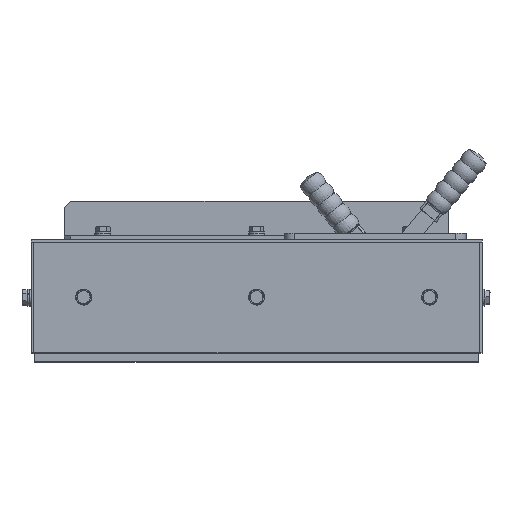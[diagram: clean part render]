
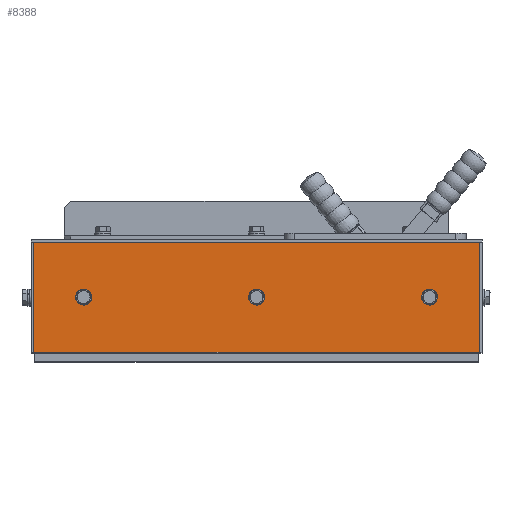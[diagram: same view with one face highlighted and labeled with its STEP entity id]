
A CAD part, top view. The second image highlights one B-rep face of the part: STEP entity #8388.
In plain terms, the highlighted planar face has unit normal (0, 0, 1) as drawn and (1, 0, 0) by its records, which use the part's own axes.
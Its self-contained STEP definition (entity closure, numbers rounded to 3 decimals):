
#939=FACE_BOUND('',#1920,.T.);
#940=FACE_BOUND('',#1921,.T.);
#941=FACE_BOUND('',#1922,.T.);
#1125=PLANE('',#9352);
#1390=FACE_OUTER_BOUND('',#1919,.T.);
#1919=EDGE_LOOP('',(#6275,#6276,#6277,#6278));
#1920=EDGE_LOOP('',(#6279));
#1921=EDGE_LOOP('',(#6280));
#1922=EDGE_LOOP('',(#6281));
#2573=LINE('',#13249,#3145);
#2577=LINE('',#13257,#3149);
#2580=LINE('',#13263,#3152);
#2583=LINE('',#13268,#3155);
#3145=VECTOR('',#10635,10.);
#3149=VECTOR('',#10641,10.);
#3152=VECTOR('',#10646,10.);
#3155=VECTOR('',#10651,10.);
#3684=CIRCLE('',#9341,4.);
#3686=CIRCLE('',#9344,4.);
#3688=CIRCLE('',#9347,4.);
#4142=VERTEX_POINT('',#13231);
#4144=VERTEX_POINT('',#13237);
#4146=VERTEX_POINT('',#13243);
#4147=VERTEX_POINT('',#13247);
#4148=VERTEX_POINT('',#13248);
#4151=VERTEX_POINT('',#13256);
#4153=VERTEX_POINT('',#13262);
#4944=EDGE_CURVE('',#4142,#4142,#3684,.T.);
#4947=EDGE_CURVE('',#4144,#4144,#3686,.T.);
#4950=EDGE_CURVE('',#4146,#4146,#3688,.T.);
#4951=EDGE_CURVE('',#4147,#4148,#2573,.T.);
#4955=EDGE_CURVE('',#4148,#4151,#2577,.T.);
#4958=EDGE_CURVE('',#4151,#4153,#2580,.T.);
#4961=EDGE_CURVE('',#4153,#4147,#2583,.T.);
#6275=ORIENTED_EDGE('',*,*,#4961,.T.);
#6276=ORIENTED_EDGE('',*,*,#4951,.T.);
#6277=ORIENTED_EDGE('',*,*,#4955,.T.);
#6278=ORIENTED_EDGE('',*,*,#4958,.T.);
#6279=ORIENTED_EDGE('',*,*,#4944,.T.);
#6280=ORIENTED_EDGE('',*,*,#4947,.T.);
#6281=ORIENTED_EDGE('',*,*,#4950,.T.);
#8388=ADVANCED_FACE('',(#1390,#939,#940,#941),#1125,.T.);
#9341=AXIS2_PLACEMENT_3D('',#13233,#10617,#10618);
#9344=AXIS2_PLACEMENT_3D('',#13239,#10624,#10625);
#9347=AXIS2_PLACEMENT_3D('',#13245,#10631,#10632);
#9352=AXIS2_PLACEMENT_3D('',#13270,#10653,#10654);
#10617=DIRECTION('center_axis',(-1.,0.,0.));
#10618=DIRECTION('ref_axis',(0.,0.,-1.));
#10624=DIRECTION('center_axis',(-1.,0.,0.));
#10625=DIRECTION('ref_axis',(0.,0.,-1.));
#10631=DIRECTION('center_axis',(-1.,0.,0.));
#10632=DIRECTION('ref_axis',(0.,0.,-1.));
#10635=DIRECTION('',(0.,0.,-1.));
#10641=DIRECTION('',(0.,1.,0.));
#10646=DIRECTION('',(0.,0.,1.));
#10651=DIRECTION('',(0.,-1.,0.));
#10653=DIRECTION('center_axis',(1.,0.,0.));
#10654=DIRECTION('ref_axis',(0.,0.,-1.));
#13231=CARTESIAN_POINT('',(0.,-45.,4.));
#13233=CARTESIAN_POINT('Origin',(0.,-45.,0.));
#13237=CARTESIAN_POINT('',(0.,-45.,-131.));
#13239=CARTESIAN_POINT('Origin',(0.,-45.,-135.));
#13243=CARTESIAN_POINT('',(0.,-45.,139.));
#13245=CARTESIAN_POINT('Origin',(0.,-45.,135.));
#13247=CARTESIAN_POINT('',(0.,-88.,174.));
#13248=CARTESIAN_POINT('',(0.,-88.,-174.));
#13249=CARTESIAN_POINT('',(0.,-88.,174.));
#13256=CARTESIAN_POINT('',(0.,-2.,-174.));
#13257=CARTESIAN_POINT('',(0.,-88.,-174.));
#13262=CARTESIAN_POINT('',(0.,-2.,174.));
#13263=CARTESIAN_POINT('',(0.,-2.,-174.));
#13268=CARTESIAN_POINT('',(0.,-2.,174.));
#13270=CARTESIAN_POINT('Origin',(0.,-45.,0.));
